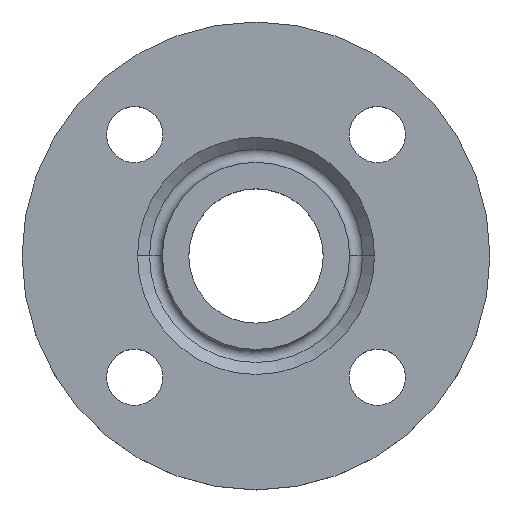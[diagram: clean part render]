
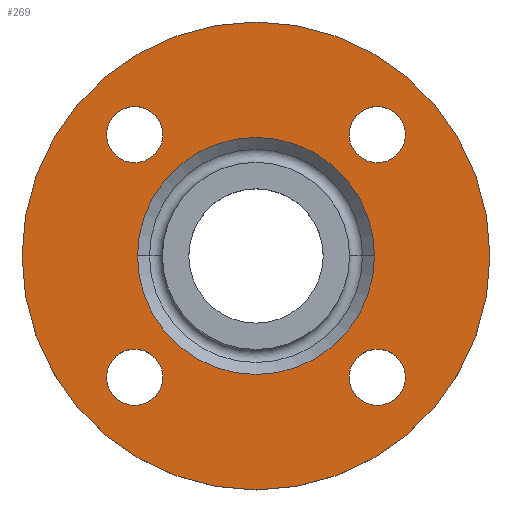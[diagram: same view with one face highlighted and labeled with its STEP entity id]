
A CAD part, top view. The second image highlights one B-rep face of the part: STEP entity #269.
In plain terms, the highlighted planar face has unit normal (0, 0, 1).
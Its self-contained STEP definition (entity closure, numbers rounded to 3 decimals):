
#19 = CARTESIAN_POINT ( 'NONE',  ( 38.891, 38.891, -2. ) ) ;
#45 = CIRCLE ( 'NONE', #492, 9. ) ;
#52 = EDGE_LOOP ( 'NONE', ( #538, #843 ) ) ;
#88 = AXIS2_PLACEMENT_3D ( 'NONE', #894, #257, #874 ) ;
#97 = PLANE ( 'NONE',  #477 ) ;
#101 = EDGE_LOOP ( 'NONE', ( #658, #888 ) ) ;
#110 = CARTESIAN_POINT ( 'NONE',  ( -29.891, -38.891, -2. ) ) ;
#114 = CARTESIAN_POINT ( 'NONE',  ( -38.891, 38.891, -2. ) ) ;
#115 = CARTESIAN_POINT ( 'NONE',  ( 0., 0., -2. ) ) ;
#116 = VERTEX_POINT ( 'NONE', #683 ) ;
#119 = CARTESIAN_POINT ( 'NONE',  ( 29.891, -38.891, -2. ) ) ;
#120 = CIRCLE ( 'NONE', #88, 9. ) ;
#131 = EDGE_CURVE ( 'NONE', #244, #637, #415, .T. ) ;
#138 = CIRCLE ( 'NONE', #175, 9. ) ;
#146 = CIRCLE ( 'NONE', #303, 9. ) ;
#148 = DIRECTION ( 'NONE',  ( 1., 0., 0. ) ) ;
#158 = CIRCLE ( 'NONE', #890, 38. ) ;
#161 = VERTEX_POINT ( 'NONE', #849 ) ;
#163 = AXIS2_PLACEMENT_3D ( 'NONE', #212, #293, #640 ) ;
#169 = EDGE_CURVE ( 'NONE', #251, #345, #877, .T. ) ;
#171 = CARTESIAN_POINT ( 'NONE',  ( 38., 0., -2. ) ) ;
#173 = CARTESIAN_POINT ( 'NONE',  ( 75., 0., -2. ) ) ;
#175 = AXIS2_PLACEMENT_3D ( 'NONE', #19, #635, #869 ) ;
#191 = CARTESIAN_POINT ( 'NONE',  ( -38., 0., -2. ) ) ;
#192 = ORIENTED_EDGE ( 'NONE', *, *, #266, .T. ) ;
#196 = ORIENTED_EDGE ( 'NONE', *, *, #443, .T. ) ;
#204 = CARTESIAN_POINT ( 'NONE',  ( -38.891, -38.891, -2. ) ) ;
#212 = CARTESIAN_POINT ( 'NONE',  ( 0., 0., -2. ) ) ;
#214 = CIRCLE ( 'NONE', #163, 75. ) ;
#224 = DIRECTION ( 'NONE',  ( 0., 0., -1. ) ) ;
#234 = DIRECTION ( 'NONE',  ( 1., 0., 0. ) ) ;
#244 = VERTEX_POINT ( 'NONE', #371 ) ;
#251 = VERTEX_POINT ( 'NONE', #110 ) ;
#254 = ORIENTED_EDGE ( 'NONE', *, *, #446, .T. ) ;
#257 = DIRECTION ( 'NONE',  ( 0., 0., -1. ) ) ;
#260 = CIRCLE ( 'NONE', #561, 9. ) ;
#261 = CARTESIAN_POINT ( 'NONE',  ( 47.891, 38.891, -2. ) ) ;
#265 = CARTESIAN_POINT ( 'NONE',  ( -47.891, -38.891, -2. ) ) ;
#266 = EDGE_CURVE ( 'NONE', #690, #439, #611, .T. ) ;
#269 = ADVANCED_FACE ( 'NONE', ( #437, #718, #493, #322, #738, #483 ), #97, .T. ) ;
#272 = DIRECTION ( 'NONE',  ( 0., 0., -1. ) ) ;
#277 = EDGE_LOOP ( 'NONE', ( #307, #719 ) ) ;
#284 = AXIS2_PLACEMENT_3D ( 'NONE', #115, #355, #911 ) ;
#292 = AXIS2_PLACEMENT_3D ( 'NONE', #560, #800, #798 ) ;
#293 = DIRECTION ( 'NONE',  ( 0., 0., -1. ) ) ;
#296 = DIRECTION ( 'NONE',  ( 1., 0., 0. ) ) ;
#302 = CARTESIAN_POINT ( 'NONE',  ( -38.891, -38.891, -2. ) ) ;
#303 = AXIS2_PLACEMENT_3D ( 'NONE', #883, #224, #873 ) ;
#307 = ORIENTED_EDGE ( 'NONE', *, *, #893, .T. ) ;
#318 = DIRECTION ( 'NONE',  ( 1., 0., 0. ) ) ;
#322 = FACE_BOUND ( 'NONE', #534, .T. ) ;
#345 = VERTEX_POINT ( 'NONE', #265 ) ;
#355 = DIRECTION ( 'NONE',  ( 0., 0., -1. ) ) ;
#369 = EDGE_CURVE ( 'NONE', #637, #244, #214, .T. ) ;
#371 = CARTESIAN_POINT ( 'NONE',  ( -75., 0., -2. ) ) ;
#372 = EDGE_LOOP ( 'NONE', ( #254, #906 ) ) ;
#373 = AXIS2_PLACEMENT_3D ( 'NONE', #204, #272, #576 ) ;
#397 = CARTESIAN_POINT ( 'NONE',  ( 38.891, -38.891, -2. ) ) ;
#407 = DIRECTION ( 'NONE',  ( -1., 0., 0. ) ) ;
#415 = CIRCLE ( 'NONE', #284, 75. ) ;
#419 = CIRCLE ( 'NONE', #292, 38. ) ;
#420 = DIRECTION ( 'NONE',  ( 0., 0., -1. ) ) ;
#437 = FACE_BOUND ( 'NONE', #372, .T. ) ;
#439 = VERTEX_POINT ( 'NONE', #769 ) ;
#443 = EDGE_CURVE ( 'NONE', #445, #161, #120, .T. ) ;
#445 = VERTEX_POINT ( 'NONE', #261 ) ;
#446 = EDGE_CURVE ( 'NONE', #116, #715, #146, .T. ) ;
#452 = CARTESIAN_POINT ( 'NONE',  ( -38.891, 38.891, -2. ) ) ;
#463 = CARTESIAN_POINT ( 'NONE',  ( 0., 0., -2. ) ) ;
#475 = AXIS2_PLACEMENT_3D ( 'NONE', #452, #500, #296 ) ;
#477 = AXIS2_PLACEMENT_3D ( 'NONE', #173, #685, #148 ) ;
#483 = FACE_OUTER_BOUND ( 'NONE', #52, .T. ) ;
#492 = AXIS2_PLACEMENT_3D ( 'NONE', #397, #682, #318 ) ;
#493 = FACE_BOUND ( 'NONE', #711, .T. ) ;
#500 = DIRECTION ( 'NONE',  ( 0., 0., -1. ) ) ;
#505 = DIRECTION ( 'NONE',  ( 0., 0., -1. ) ) ;
#534 = EDGE_LOOP ( 'NONE', ( #196, #866 ) ) ;
#538 = ORIENTED_EDGE ( 'NONE', *, *, #369, .F. ) ;
#543 = DIRECTION ( 'NONE',  ( 0., 0., -1. ) ) ;
#556 = CIRCLE ( 'NONE', #373, 9. ) ;
#560 = CARTESIAN_POINT ( 'NONE',  ( 0., 0., -2. ) ) ;
#561 = AXIS2_PLACEMENT_3D ( 'NONE', #114, #505, #696 ) ;
#576 = DIRECTION ( 'NONE',  ( 1., 0., 0. ) ) ;
#589 = VERTEX_POINT ( 'NONE', #171 ) ;
#611 = CIRCLE ( 'NONE', #475, 9. ) ;
#626 = EDGE_CURVE ( 'NONE', #715, #116, #45, .T. ) ;
#635 = DIRECTION ( 'NONE',  ( 0., 0., -1. ) ) ;
#637 = VERTEX_POINT ( 'NONE', #925 ) ;
#640 = DIRECTION ( 'NONE',  ( -1., 0., 0. ) ) ;
#643 = EDGE_CURVE ( 'NONE', #345, #251, #556, .T. ) ;
#658 = ORIENTED_EDGE ( 'NONE', *, *, #169, .T. ) ;
#674 = EDGE_CURVE ( 'NONE', #161, #445, #138, .T. ) ;
#682 = DIRECTION ( 'NONE',  ( 0., 0., -1. ) ) ;
#683 = CARTESIAN_POINT ( 'NONE',  ( 47.891, -38.891, -2. ) ) ;
#685 = DIRECTION ( 'NONE',  ( 0., 0., 1. ) ) ;
#690 = VERTEX_POINT ( 'NONE', #805 ) ;
#696 = DIRECTION ( 'NONE',  ( 1., 0., 0. ) ) ;
#711 = EDGE_LOOP ( 'NONE', ( #192, #895 ) ) ;
#715 = VERTEX_POINT ( 'NONE', #119 ) ;
#718 = FACE_BOUND ( 'NONE', #101, .T. ) ;
#719 = ORIENTED_EDGE ( 'NONE', *, *, #770, .T. ) ;
#738 = FACE_BOUND ( 'NONE', #277, .T. ) ;
#769 = CARTESIAN_POINT ( 'NONE',  ( -47.891, 38.891, -2. ) ) ;
#770 = EDGE_CURVE ( 'NONE', #816, #589, #158, .T. ) ;
#798 = DIRECTION ( 'NONE',  ( -1., 0., 0. ) ) ;
#800 = DIRECTION ( 'NONE',  ( 0., 0., -1. ) ) ;
#805 = CARTESIAN_POINT ( 'NONE',  ( -29.891, 38.891, -2. ) ) ;
#816 = VERTEX_POINT ( 'NONE', #191 ) ;
#827 = EDGE_CURVE ( 'NONE', #439, #690, #260, .T. ) ;
#843 = ORIENTED_EDGE ( 'NONE', *, *, #131, .F. ) ;
#849 = CARTESIAN_POINT ( 'NONE',  ( 29.891, 38.891, -2. ) ) ;
#866 = ORIENTED_EDGE ( 'NONE', *, *, #674, .T. ) ;
#869 = DIRECTION ( 'NONE',  ( 1., 0., 0. ) ) ;
#873 = DIRECTION ( 'NONE',  ( 1., 0., 0. ) ) ;
#874 = DIRECTION ( 'NONE',  ( 1., 0., 0. ) ) ;
#877 = CIRCLE ( 'NONE', #889, 9. ) ;
#883 = CARTESIAN_POINT ( 'NONE',  ( 38.891, -38.891, -2. ) ) ;
#888 = ORIENTED_EDGE ( 'NONE', *, *, #643, .T. ) ;
#889 = AXIS2_PLACEMENT_3D ( 'NONE', #302, #543, #234 ) ;
#890 = AXIS2_PLACEMENT_3D ( 'NONE', #463, #420, #407 ) ;
#893 = EDGE_CURVE ( 'NONE', #589, #816, #419, .T. ) ;
#894 = CARTESIAN_POINT ( 'NONE',  ( 38.891, 38.891, -2. ) ) ;
#895 = ORIENTED_EDGE ( 'NONE', *, *, #827, .T. ) ;
#906 = ORIENTED_EDGE ( 'NONE', *, *, #626, .T. ) ;
#911 = DIRECTION ( 'NONE',  ( -1., 0., 0. ) ) ;
#925 = CARTESIAN_POINT ( 'NONE',  ( 75., 0., -2. ) ) ;
